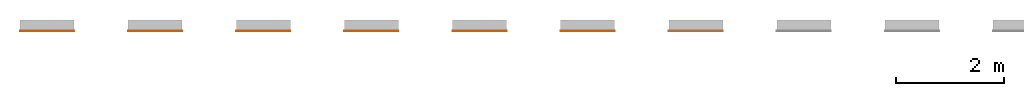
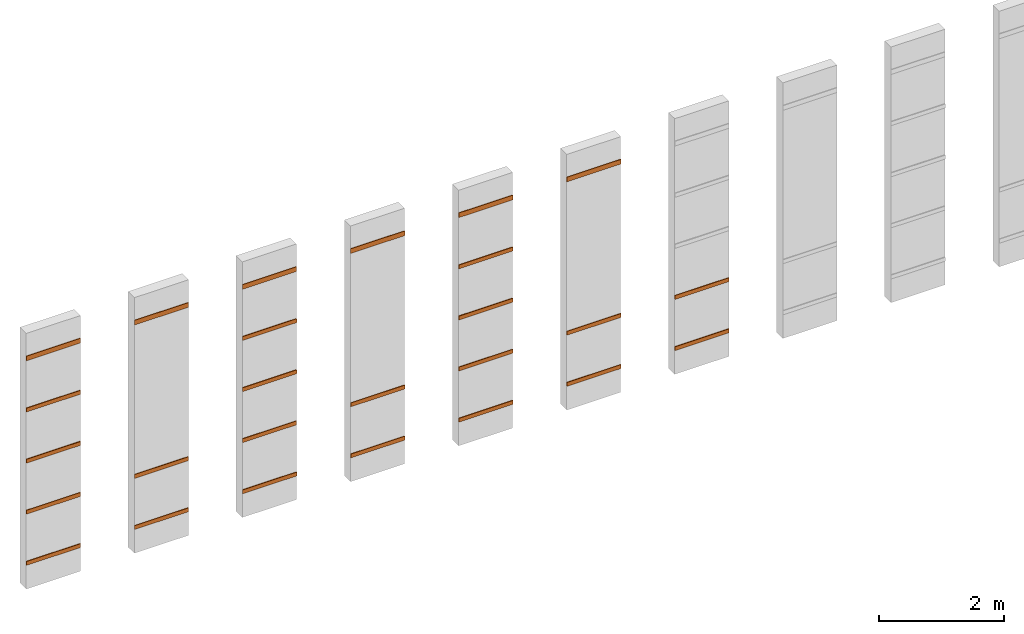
# One storey, part 2 of 3: 26 proxies.
"""IFC2X3 building model written with IfcOpenShell, lengths in millimetres."""

from ifc_helpers import new_model, entity, si_unit, converted_unit, derived_unit, direction, frame, frame_2d, origin, place, context, subcontext, project, spatial, polyline, circle_curve, parameter, trimmed, segment, composite_curve, outline, extrude, type_object, element, save


model = new_model("IFC2X3")

# Units and contexts
model_context = context("Model", 3, precision=0.01, world=origin(), true_north=direction((6.12303176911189e-17, 1.0)))
body_context = subcontext(model_context, "Body", "Model", "MODEL_VIEW")
ifc_project = project(units=[si_unit("LENGTHUNIT", "METRE", prefix="MILLI"), si_unit("AREAUNIT", "SQUARE_METRE"), si_unit("VOLUMEUNIT", "CUBIC_METRE"), converted_unit("PLANEANGLEUNIT", "DEGREE", entity("IfcRatioMeasure", 0.0174532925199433), si_unit("PLANEANGLEUNIT", "RADIAN"), dimensions=[0, 0, 0, 0, 0, 0, 0]), si_unit("MASSUNIT", "GRAM", prefix="KILO"), derived_unit("MASSDENSITYUNIT", [(si_unit("MASSUNIT", "GRAM", prefix="KILO"), 1), (si_unit("LENGTHUNIT", "METRE"), -3)]), derived_unit("MOMENTOFINERTIAUNIT", [(si_unit("LENGTHUNIT", "METRE"), 4)]), si_unit("TIMEUNIT", "SECOND"), si_unit("FREQUENCYUNIT", "HERTZ"), si_unit("THERMODYNAMICTEMPERATUREUNIT", "DEGREE_CELSIUS"), derived_unit("THERMALTRANSMITTANCEUNIT", [(si_unit("MASSUNIT", "GRAM", prefix="KILO"), 1), (si_unit("THERMODYNAMICTEMPERATUREUNIT", "KELVIN"), -1), (si_unit("TIMEUNIT", "SECOND"), -3)]), derived_unit("VOLUMETRICFLOWRATEUNIT", [(si_unit("LENGTHUNIT", "METRE"), 3), (si_unit("TIMEUNIT", "SECOND"), -1)]), si_unit("ELECTRICCURRENTUNIT", "AMPERE"), si_unit("ELECTRICVOLTAGEUNIT", "VOLT"), si_unit("POWERUNIT", "WATT"), si_unit("FORCEUNIT", "NEWTON", prefix="KILO"), si_unit("ILLUMINANCEUNIT", "LUX"), si_unit("LUMINOUSFLUXUNIT", "LUMEN"), si_unit("LUMINOUSINTENSITYUNIT", "CANDELA"), derived_unit("USERDEFINED", [(si_unit("MASSUNIT", "GRAM", prefix="KILO"), -1), (si_unit("LENGTHUNIT", "METRE"), -2), (si_unit("TIMEUNIT", "SECOND"), 3), (si_unit("LUMINOUSFLUXUNIT", "LUMEN"), 1)]), derived_unit("LINEARVELOCITYUNIT", [(si_unit("LENGTHUNIT", "METRE"), 1), (si_unit("TIMEUNIT", "SECOND"), -1)]), si_unit("PRESSUREUNIT", "PASCAL"), derived_unit("USERDEFINED", [(si_unit("LENGTHUNIT", "METRE"), -2), (si_unit("MASSUNIT", "GRAM", prefix="KILO"), 1), (si_unit("TIMEUNIT", "SECOND"), -2)]), derived_unit("LINEARFORCEUNIT", [(si_unit("MASSUNIT", "GRAM", prefix="KILO"), 1), (si_unit("LENGTHUNIT", "METRE"), 1), (si_unit("TIMEUNIT", "SECOND"), -2), (si_unit("LENGTHUNIT", "METRE"), -1)]), derived_unit("PLANARFORCEUNIT", [(si_unit("MASSUNIT", "GRAM", prefix="KILO"), 1), (si_unit("LENGTHUNIT", "METRE"), 1), (si_unit("TIMEUNIT", "SECOND"), -2), (si_unit("LENGTHUNIT", "METRE"), -2)])], contexts=[model_context])

# Site, building, storey
site_placement = place(None, origin())
site = spatial("IfcSite", under=ifc_project, at=site_placement, Name="Default", CompositionType="ELEMENT")
building_placement = place(site_placement, origin())
building = spatial("IfcBuilding", under=site, at=building_placement, CompositionType="ELEMENT")
storey_placement = place(building_placement, origin())
storey = spatial("IfcBuildingStorey", under=building, at=storey_placement, Name="Level 1", CompositionType="ELEMENT", Elevation=0.0)

# Proxies
building_element_proxy_type_1 = type_object("IfcBuildingElementProxyType", Name="Wall Sweep:REVIGRÉS-URBAN-RB-8X45-RECT-ANTRACITE", PredefinedType="NOTDEFINED")
proxy_1_placement = place(storey_placement, origin())
element("IfcBuildingElementProxy", 1, at=proxy_1_placement, inside=storey, type_object=building_element_proxy_type_1, Name="Wall Sweep:REVIGRÉS-URBAN-RB-8X45-RECT-ANTRACITE", ObjectType="Wall Sweep:REVIGRÉS-URBAN-RB-8X45-RECT-ANTRACITE", context=body_context, shape_type="SweptSolid", body=[
    extrude(outline(composite_curve([segment(polyline([(-37.5500000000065, -4.89999999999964), (42.4499999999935, -4.89999999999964)]), True, "CONTINUOUS"), segment(trimmed(circle_curve(frame_2d((32.6499999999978, -4.89999999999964), x_axis=(0.0, 1.0)), 9.79999999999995), [parameter(270.0)], [parameter(0.0)], True, "PARAMETER"), True, "CONTINUOUS"), segment(polyline([(32.6499999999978, 4.89999999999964), (-37.5500000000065, 4.89999999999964)]), True, "CONTINUOUS"), segment(polyline([(-37.5500000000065, 4.89999999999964), (-37.5500000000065, -4.89999999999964)]), True, "CONTINUOUS")], self_intersect=False)), frame((5592.00231570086, -6978.01532249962, -25641.9279793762), z_axis=(1.0, 0.0, 0.0), x_axis=(0.0, 0.0, 1.0)), (0.0, 0.0, 1.0), 1000.0),
])
building_element_proxy_type_2 = type_object("IfcBuildingElementProxyType", Name="Wall Sweep:REVIGRÉS-URBAN-RB-8X60-RECT-ANTRACITE", PredefinedType="NOTDEFINED")
proxy_2_placement = place(storey_placement, origin())
element("IfcBuildingElementProxy", 2, at=proxy_2_placement, inside=storey, type_object=building_element_proxy_type_2, Name="Wall Sweep:REVIGRÉS-URBAN-RB-8X60-RECT-ANTRACITE", ObjectType="Wall Sweep:REVIGRÉS-URBAN-RB-8X60-RECT-ANTRACITE", context=body_context, shape_type="SweptSolid", body=[
    extrude(outline(composite_curve([segment(polyline([(-37.8749999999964, -4.25), (42.1250000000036, -4.25)]), True, "CONTINUOUS"), segment(trimmed(circle_curve(frame_2d((33.6250000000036, -4.25), x_axis=(0.0, 1.0)), 8.49999999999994), [parameter(270.0)], [parameter(0.0)], True, "PARAMETER"), True, "CONTINUOUS"), segment(polyline([(33.6250000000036, 4.25), (-37.8749999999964, 4.25)]), True, "CONTINUOUS"), segment(polyline([(-37.8749999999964, 4.25), (-37.8749999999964, -4.25)]), True, "CONTINUOUS")], self_intersect=False)), frame((5592.00231570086, -6977.36532249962, -24641.6029793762), z_axis=(1.0, 0.0, 0.0), x_axis=(0.0, 0.0, 1.0)), (0.0, 0.0, 1.0), 1000.0),
])
building_element_proxy_type_3 = type_object("IfcBuildingElementProxyType", Name="Wall Sweep:REVIGRÉS-URBAN-RB-8X90-RECT-ANTRACITE", PredefinedType="NOTDEFINED")
proxy_3_placement = place(storey_placement, origin())
element("IfcBuildingElementProxy", 3, at=proxy_3_placement, inside=storey, type_object=building_element_proxy_type_3, Name="Wall Sweep:REVIGRÉS-URBAN-RB-8X90-RECT-ANTRACITE", ObjectType="Wall Sweep:REVIGRÉS-URBAN-RB-8X90-RECT-ANTRACITE", context=body_context, shape_type="SweptSolid", body=[
    extrude(outline(composite_curve([segment(polyline([(-37.375, -5.24999999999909), (42.625, -5.24999999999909)]), True, "CONTINUOUS"), segment(trimmed(circle_curve(frame_2d((32.1250000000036, -5.24999999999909), x_axis=(0.0, 1.0)), 10.4999999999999), [parameter(270.0)], [parameter(0.0)], True, "PARAMETER"), True, "CONTINUOUS"), segment(polyline([(32.1250000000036, 5.25), (-37.375, 5.25)]), True, "CONTINUOUS"), segment(polyline([(-37.375, 5.25), (-37.375, -5.24999999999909)]), True, "CONTINUOUS")], self_intersect=False)), frame((5592.00231570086, -6978.36532249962, -23642.1029793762), z_axis=(1.0, 0.0, 0.0), x_axis=(0.0, 0.0, 1.0)), (0.0, 0.0, 1.0), 1000.0),
])
building_element_proxy_type_4 = type_object("IfcBuildingElementProxyType", Name="Wall Sweep:REVIGRÉS-URBAN-RB-8X120-RECT-ANTRACITE", PredefinedType="NOTDEFINED")
proxy_4_placement = place(storey_placement, origin())
element("IfcBuildingElementProxy", 4, at=proxy_4_placement, inside=storey, type_object=building_element_proxy_type_4, Name="Wall Sweep:REVIGRÉS-URBAN-RB-8X120-RECT-ANTRACITE", ObjectType="Wall Sweep:REVIGRÉS-URBAN-RB-8X120-RECT-ANTRACITE", context=body_context, shape_type="SweptSolid", body=[
    extrude(outline(composite_curve([segment(polyline([(-37.5499999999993, -4.89999999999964), (42.4500000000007, -4.89999999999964)]), True, "CONTINUOUS"), segment(trimmed(circle_curve(frame_2d((32.6500000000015, -4.89999999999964), x_axis=(0.0, 1.0)), 9.79999999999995), [parameter(270.0)], [parameter(0.0)], True, "PARAMETER"), True, "CONTINUOUS"), segment(polyline([(32.6500000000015, 4.89999999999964), (-37.5499999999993, 4.89999999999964)]), True, "CONTINUOUS"), segment(polyline([(-37.5499999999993, 4.89999999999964), (-37.5499999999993, -4.89999999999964)]), True, "CONTINUOUS")], self_intersect=False)), frame((5592.00231570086, -6978.01532249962, -22641.9279793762), z_axis=(1.0, 0.0, 0.0), x_axis=(0.0, 0.0, 1.0)), (0.0, 0.0, 1.0), 1000.0),
])
building_element_proxy_type_5 = type_object("IfcBuildingElementProxyType", Name="Wall Sweep:REVIGRÉS-URBAN-RB-9.5X30-RECT-ANTRACITE", PredefinedType="NOTDEFINED")
proxy_5_placement = place(storey_placement, origin())
element("IfcBuildingElementProxy", 5, at=proxy_5_placement, inside=storey, type_object=building_element_proxy_type_5, Name="Wall Sweep:REVIGRÉS-URBAN-RB-9.5X30-RECT-ANTRACITE", ObjectType="Wall Sweep:REVIGRÉS-URBAN-RB-9.5X30-RECT-ANTRACITE", context=body_context, shape_type="SweptSolid", body=[
    extrude(outline(composite_curve([segment(polyline([(-45.5749999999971, -3.84999999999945), (49.4250000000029, -3.84999999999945)]), True, "CONTINUOUS"), segment(trimmed(circle_curve(frame_2d((41.7250000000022, -3.84999999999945), x_axis=(0.0, 1.0)), 7.69999999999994), [parameter(270.0)], [parameter(0.0)], True, "PARAMETER"), True, "CONTINUOUS"), segment(polyline([(41.7250000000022, 3.85000000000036), (-45.5749999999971, 3.85000000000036)]), True, "CONTINUOUS"), segment(polyline([(-45.5749999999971, 3.85000000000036), (-45.5749999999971, -3.84999999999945)]), True, "CONTINUOUS")], self_intersect=False)), frame((5592.00231570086, -6976.96532249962, -21633.9029793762), z_axis=(1.0, 0.0, 0.0), x_axis=(0.0, 0.0, 1.0)), (0.0, 0.0, 1.0), 1000.0),
])
building_element_proxy_type_6 = type_object("IfcBuildingElementProxyType", Name="Wall Sweep:REVIGRÉS-URBAN-RB-8X45-NAT-ANTRACITE", PredefinedType="NOTDEFINED")
proxy_6_placement = place(storey_placement, origin())
element("IfcBuildingElementProxy", 6, at=proxy_6_placement, inside=storey, type_object=building_element_proxy_type_6, Name="Wall Sweep:REVIGRÉS-URBAN-RB-8X45-NAT-ANTRACITE", ObjectType="Wall Sweep:REVIGRÉS-URBAN-RB-8X45-NAT-ANTRACITE", context=body_context, shape_type="SweptSolid", body=[
    extrude(outline(composite_curve([segment(polyline([(-37.8750000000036, -4.25), (42.1249999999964, -4.25)]), True, "CONTINUOUS"), segment(trimmed(circle_curve(frame_2d((33.625, -4.25), x_axis=(0.0, 1.0)), 8.49999999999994), [parameter(270.0)], [parameter(0.0)], True, "PARAMETER"), True, "CONTINUOUS"), segment(polyline([(33.625, 4.25), (-37.8750000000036, 4.25)]), True, "CONTINUOUS"), segment(polyline([(-37.8750000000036, 4.25), (-37.8750000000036, -4.25)]), True, "CONTINUOUS")], self_intersect=False)), frame((7592.00231570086, -6977.36532249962, -25641.6029793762), z_axis=(1.0, 0.0, 0.0), x_axis=(0.0, 0.0, 1.0)), (0.0, 0.0, 1.0), 1000.0),
])
building_element_proxy_type_7 = type_object("IfcBuildingElementProxyType", Name="Wall Sweep:REVIGRÉS-URBAN-RB-8X60-NAT-ANTRACITE", PredefinedType="NOTDEFINED")
proxy_7_placement = place(storey_placement, origin())
element("IfcBuildingElementProxy", 7, at=proxy_7_placement, inside=storey, type_object=building_element_proxy_type_7, Name="Wall Sweep:REVIGRÉS-URBAN-RB-8X60-NAT-ANTRACITE", ObjectType="Wall Sweep:REVIGRÉS-URBAN-RB-8X60-NAT-ANTRACITE", context=body_context, shape_type="SweptSolid", body=[
    extrude(outline(composite_curve([segment(polyline([(-37.8749999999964, -4.25), (42.1250000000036, -4.25)]), True, "CONTINUOUS"), segment(trimmed(circle_curve(frame_2d((33.6250000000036, -4.25), x_axis=(0.0, 1.0)), 8.49999999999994), [parameter(270.0)], [parameter(0.0)], True, "PARAMETER"), True, "CONTINUOUS"), segment(polyline([(33.6250000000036, 4.25), (-37.8749999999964, 4.25)]), True, "CONTINUOUS"), segment(polyline([(-37.8749999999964, 4.25), (-37.8749999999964, -4.25)]), True, "CONTINUOUS")], self_intersect=False)), frame((7592.00231570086, -6977.36532249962, -24641.6029793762), z_axis=(1.0, 0.0, 0.0), x_axis=(0.0, 0.0, 1.0)), (0.0, 0.0, 1.0), 1000.0),
])
building_element_proxy_type_8 = type_object("IfcBuildingElementProxyType", Name="Wall Sweep:REVIGRÉS-URBAN-RB-9.5X30-NAT-ANTRACITE", PredefinedType="NOTDEFINED")
proxy_8_placement = place(storey_placement, origin())
element("IfcBuildingElementProxy", 8, at=proxy_8_placement, inside=storey, type_object=building_element_proxy_type_8, Name="Wall Sweep:REVIGRÉS-URBAN-RB-9.5X30-NAT-ANTRACITE", ObjectType="Wall Sweep:REVIGRÉS-URBAN-RB-9.5X30-NAT-ANTRACITE", context=body_context, shape_type="SweptSolid", body=[
    extrude(outline(composite_curve([segment(polyline([(-45.5749999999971, -3.85000000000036), (49.4250000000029, -3.85000000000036)]), True, "CONTINUOUS"), segment(trimmed(circle_curve(frame_2d((41.7250000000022, -3.85000000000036), x_axis=(0.0, 1.0)), 7.69999999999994), [parameter(270.0)], [parameter(0.0)], True, "PARAMETER"), True, "CONTINUOUS"), segment(polyline([(41.7250000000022, 3.84999999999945), (-45.5749999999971, 3.84999999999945)]), True, "CONTINUOUS"), segment(polyline([(-45.5749999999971, 3.84999999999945), (-45.5749999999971, -3.85000000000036)]), True, "CONTINUOUS")], self_intersect=False)), frame((7592.00231570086, -6976.96532249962, -21633.9029793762), z_axis=(1.0, 0.0, 0.0), x_axis=(0.0, 0.0, 1.0)), (0.0, 0.0, 1.0), 1000.0),
])
building_element_proxy_type_9 = type_object("IfcBuildingElementProxyType", Name="Wall Sweep:REVIGRÉS-URBAN-RB-8X45-RECT-BONE", PredefinedType="NOTDEFINED")
proxy_9_placement = place(storey_placement, origin())
element("IfcBuildingElementProxy", 9, at=proxy_9_placement, inside=storey, type_object=building_element_proxy_type_9, Name="Wall Sweep:REVIGRÉS-URBAN-RB-8X45-RECT-BONE", ObjectType="Wall Sweep:REVIGRÉS-URBAN-RB-8X45-RECT-BONE", context=body_context, shape_type="SweptSolid", body=[
    extrude(outline(composite_curve([segment(polyline([(-37.5500000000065, -4.89999999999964), (42.4499999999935, -4.89999999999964)]), True, "CONTINUOUS"), segment(trimmed(circle_curve(frame_2d((32.6499999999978, -4.89999999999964), x_axis=(0.0, 1.0)), 9.79999999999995), [parameter(270.0)], [parameter(0.0)], True, "PARAMETER"), True, "CONTINUOUS"), segment(polyline([(32.6499999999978, 4.90000000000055), (-37.5500000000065, 4.90000000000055)]), True, "CONTINUOUS"), segment(polyline([(-37.5500000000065, 4.90000000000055), (-37.5500000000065, -4.89999999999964)]), True, "CONTINUOUS")], self_intersect=False)), frame((9592.00231570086, -6978.01532249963, -25641.9279793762), z_axis=(1.0, 0.0, 0.0), x_axis=(0.0, 0.0, 1.0)), (0.0, 0.0, 1.0), 1000.0),
])
building_element_proxy_type_10 = type_object("IfcBuildingElementProxyType", Name="Wall Sweep:REVIGRÉS-URBAN-RB-8X60-RECT-BONE", PredefinedType="NOTDEFINED")
proxy_10_placement = place(storey_placement, origin())
element("IfcBuildingElementProxy", 10, at=proxy_10_placement, inside=storey, type_object=building_element_proxy_type_10, Name="Wall Sweep:REVIGRÉS-URBAN-RB-8X60-RECT-BONE", ObjectType="Wall Sweep:REVIGRÉS-URBAN-RB-8X60-RECT-BONE", context=body_context, shape_type="SweptSolid", body=[
    extrude(outline(composite_curve([segment(polyline([(-37.8749999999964, -4.25), (42.1250000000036, -4.25)]), True, "CONTINUOUS"), segment(trimmed(circle_curve(frame_2d((33.6250000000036, -4.25), x_axis=(0.0, 1.0)), 8.49999999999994), [parameter(270.0)], [parameter(0.0)], True, "PARAMETER"), True, "CONTINUOUS"), segment(polyline([(33.6250000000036, 4.25), (-37.8749999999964, 4.25)]), True, "CONTINUOUS"), segment(polyline([(-37.8749999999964, 4.25), (-37.8749999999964, -4.25)]), True, "CONTINUOUS")], self_intersect=False)), frame((9592.00231570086, -6977.36532249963, -24641.6029793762), z_axis=(1.0, 0.0, 0.0), x_axis=(0.0, 0.0, 1.0)), (0.0, 0.0, 1.0), 1000.0),
])
building_element_proxy_type_11 = type_object("IfcBuildingElementProxyType", Name="Wall Sweep:REVIGRÉS-URBAN-RB-8X90-RECT-BONE", PredefinedType="NOTDEFINED")
proxy_11_placement = place(storey_placement, origin())
element("IfcBuildingElementProxy", 11, at=proxy_11_placement, inside=storey, type_object=building_element_proxy_type_11, Name="Wall Sweep:REVIGRÉS-URBAN-RB-8X90-RECT-BONE", ObjectType="Wall Sweep:REVIGRÉS-URBAN-RB-8X90-RECT-BONE", context=body_context, shape_type="SweptSolid", body=[
    extrude(outline(composite_curve([segment(polyline([(-37.375, -5.25), (42.625, -5.25)]), True, "CONTINUOUS"), segment(trimmed(circle_curve(frame_2d((32.1250000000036, -5.25), x_axis=(0.0, 1.0)), 10.4999999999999), [parameter(270.0)], [parameter(0.0)], True, "PARAMETER"), True, "CONTINUOUS"), segment(polyline([(32.1250000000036, 5.25), (-37.375, 5.25)]), True, "CONTINUOUS"), segment(polyline([(-37.375, 5.25), (-37.375, -5.25)]), True, "CONTINUOUS")], self_intersect=False)), frame((9592.00231570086, -6978.36532249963, -23642.1029793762), z_axis=(1.0, 0.0, 0.0), x_axis=(0.0, 0.0, 1.0)), (0.0, 0.0, 1.0), 1000.0),
])
building_element_proxy_type_12 = type_object("IfcBuildingElementProxyType", Name="Wall Sweep:REVIGRÉS-URBAN-RB-8X120-RECT-BONE", PredefinedType="NOTDEFINED")
proxy_12_placement = place(storey_placement, origin())
element("IfcBuildingElementProxy", 12, at=proxy_12_placement, inside=storey, type_object=building_element_proxy_type_12, Name="Wall Sweep:REVIGRÉS-URBAN-RB-8X120-RECT-BONE", ObjectType="Wall Sweep:REVIGRÉS-URBAN-RB-8X120-RECT-BONE", context=body_context, shape_type="SweptSolid", body=[
    extrude(outline(composite_curve([segment(polyline([(-37.5499999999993, -4.89999999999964), (42.4500000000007, -4.89999999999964)]), True, "CONTINUOUS"), segment(trimmed(circle_curve(frame_2d((32.6500000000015, -4.89999999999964), x_axis=(0.0, 1.0)), 9.79999999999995), [parameter(270.0)], [parameter(0.0)], True, "PARAMETER"), True, "CONTINUOUS"), segment(polyline([(32.6500000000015, 4.90000000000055), (-37.5499999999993, 4.90000000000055)]), True, "CONTINUOUS"), segment(polyline([(-37.5499999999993, 4.90000000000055), (-37.5499999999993, -4.89999999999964)]), True, "CONTINUOUS")], self_intersect=False)), frame((9592.00231570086, -6978.01532249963, -22641.9279793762), z_axis=(1.0, 0.0, 0.0), x_axis=(0.0, 0.0, 1.0)), (0.0, 0.0, 1.0), 1000.0),
])
building_element_proxy_type_13 = type_object("IfcBuildingElementProxyType", Name="Wall Sweep:REVIGRÉS-URBAN-RB-9.5X30-RECT-BONE", PredefinedType="NOTDEFINED")
proxy_13_placement = place(storey_placement, origin())
element("IfcBuildingElementProxy", 13, at=proxy_13_placement, inside=storey, type_object=building_element_proxy_type_13, Name="Wall Sweep:REVIGRÉS-URBAN-RB-9.5X30-RECT-BONE", ObjectType="Wall Sweep:REVIGRÉS-URBAN-RB-9.5X30-RECT-BONE", context=body_context, shape_type="SweptSolid", body=[
    extrude(outline(composite_curve([segment(polyline([(-45.5749999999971, -3.85000000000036), (49.4250000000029, -3.85000000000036)]), True, "CONTINUOUS"), segment(trimmed(circle_curve(frame_2d((41.7250000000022, -3.85000000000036), x_axis=(0.0, 1.0)), 7.69999999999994), [parameter(270.0)], [parameter(0.0)], True, "PARAMETER"), True, "CONTINUOUS"), segment(polyline([(41.7250000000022, 3.85000000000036), (-45.5749999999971, 3.85000000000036)]), True, "CONTINUOUS"), segment(polyline([(-45.5749999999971, 3.85000000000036), (-45.5749999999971, -3.85000000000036)]), True, "CONTINUOUS")], self_intersect=False)), frame((9592.00231570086, -6976.96532249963, -21633.9029793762), z_axis=(1.0, 0.0, 0.0), x_axis=(0.0, 0.0, 1.0)), (0.0, 0.0, 1.0), 1000.0),
])
building_element_proxy_type_14 = type_object("IfcBuildingElementProxyType", Name="Wall Sweep:REVIGRÉS-URBAN-RB-8X45-NAT-BONE", PredefinedType="NOTDEFINED")
proxy_14_placement = place(storey_placement, origin())
element("IfcBuildingElementProxy", 14, at=proxy_14_placement, inside=storey, type_object=building_element_proxy_type_14, Name="Wall Sweep:REVIGRÉS-URBAN-RB-8X45-NAT-BONE", ObjectType="Wall Sweep:REVIGRÉS-URBAN-RB-8X45-NAT-BONE", context=body_context, shape_type="SweptSolid", body=[
    extrude(outline(composite_curve([segment(polyline([(-37.8750000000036, -4.25), (42.1249999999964, -4.25)]), True, "CONTINUOUS"), segment(trimmed(circle_curve(frame_2d((33.625, -4.25), x_axis=(0.0, 1.0)), 8.49999999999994), [parameter(270.0)], [parameter(0.0)], True, "PARAMETER"), True, "CONTINUOUS"), segment(polyline([(33.625, 4.25), (-37.8750000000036, 4.25)]), True, "CONTINUOUS"), segment(polyline([(-37.8750000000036, 4.25), (-37.8750000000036, -4.25)]), True, "CONTINUOUS")], self_intersect=False)), frame((11592.0023157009, -6977.36532249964, -25641.6029793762), z_axis=(1.0, 0.0, 0.0), x_axis=(0.0, 0.0, 1.0)), (0.0, 0.0, 1.0), 1000.0),
])
building_element_proxy_type_15 = type_object("IfcBuildingElementProxyType", Name="Wall Sweep:REVIGRÉS-URBAN-RB-8X60-NAT-BONE", PredefinedType="NOTDEFINED")
proxy_15_placement = place(storey_placement, origin())
element("IfcBuildingElementProxy", 15, at=proxy_15_placement, inside=storey, type_object=building_element_proxy_type_15, Name="Wall Sweep:REVIGRÉS-URBAN-RB-8X60-NAT-BONE", ObjectType="Wall Sweep:REVIGRÉS-URBAN-RB-8X60-NAT-BONE", context=body_context, shape_type="SweptSolid", body=[
    extrude(outline(composite_curve([segment(polyline([(-37.8749999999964, -4.25), (42.1250000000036, -4.25)]), True, "CONTINUOUS"), segment(trimmed(circle_curve(frame_2d((33.6250000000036, -4.25), x_axis=(0.0, 1.0)), 8.49999999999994), [parameter(270.0)], [parameter(0.0)], True, "PARAMETER"), True, "CONTINUOUS"), segment(polyline([(33.6250000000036, 4.25), (-37.8749999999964, 4.25)]), True, "CONTINUOUS"), segment(polyline([(-37.8749999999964, 4.25), (-37.8749999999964, -4.25)]), True, "CONTINUOUS")], self_intersect=False)), frame((11592.0023157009, -6977.36532249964, -24641.6029793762), z_axis=(1.0, 0.0, 0.0), x_axis=(0.0, 0.0, 1.0)), (0.0, 0.0, 1.0), 1000.0),
])
building_element_proxy_type_16 = type_object("IfcBuildingElementProxyType", Name="Wall Sweep:REVIGRÉS-URBAN-RB-9.5X30-NAT-BONE", PredefinedType="NOTDEFINED")
proxy_16_placement = place(storey_placement, origin())
element("IfcBuildingElementProxy", 16, at=proxy_16_placement, inside=storey, type_object=building_element_proxy_type_16, Name="Wall Sweep:REVIGRÉS-URBAN-RB-9.5X30-NAT-BONE", ObjectType="Wall Sweep:REVIGRÉS-URBAN-RB-9.5X30-NAT-BONE", context=body_context, shape_type="SweptSolid", body=[
    extrude(outline(composite_curve([segment(polyline([(-45.5749999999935, -3.85000000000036), (49.4250000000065, -3.85000000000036)]), True, "CONTINUOUS"), segment(trimmed(circle_curve(frame_2d((41.7250000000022, -3.85000000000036), x_axis=(0.0, 1.0)), 7.69999999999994), [parameter(270.0)], [parameter(0.0)], True, "PARAMETER"), True, "CONTINUOUS"), segment(polyline([(41.7250000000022, 3.85000000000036), (-45.5749999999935, 3.85000000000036)]), True, "CONTINUOUS"), segment(polyline([(-45.5749999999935, 3.85000000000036), (-45.5749999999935, -3.85000000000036)]), True, "CONTINUOUS")], self_intersect=False)), frame((11592.0023157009, -6976.96532249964, -21633.9029793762), z_axis=(1.0, 0.0, 0.0), x_axis=(0.0, 0.0, 1.0)), (0.0, 0.0, 1.0), 1000.0),
])
building_element_proxy_type_17 = type_object("IfcBuildingElementProxyType", Name="Wall Sweep:REVIGRÉS-URBAN-RB-8X45-RECT-CRAFT", PredefinedType="NOTDEFINED")
proxy_17_placement = place(storey_placement, origin())
element("IfcBuildingElementProxy", 17, at=proxy_17_placement, inside=storey, type_object=building_element_proxy_type_17, Name="Wall Sweep:REVIGRÉS-URBAN-RB-8X45-RECT-CRAFT", ObjectType="Wall Sweep:REVIGRÉS-URBAN-RB-8X45-RECT-CRAFT", context=body_context, shape_type="SweptSolid", body=[
    extrude(outline(composite_curve([segment(polyline([(-37.5500000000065, -4.90000000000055), (42.4499999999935, -4.90000000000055)]), True, "CONTINUOUS"), segment(trimmed(circle_curve(frame_2d((32.6499999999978, -4.90000000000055), x_axis=(0.0, 1.0)), 9.79999999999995), [parameter(270.0)], [parameter(0.0)], True, "PARAMETER"), True, "CONTINUOUS"), segment(polyline([(32.6499999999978, 4.89999999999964), (-37.5500000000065, 4.89999999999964)]), True, "CONTINUOUS"), segment(polyline([(-37.5500000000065, 4.89999999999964), (-37.5500000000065, -4.90000000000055)]), True, "CONTINUOUS")], self_intersect=False)), frame((13592.0023157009, -6978.01532249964, -25641.9279793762), z_axis=(1.0, 0.0, 0.0), x_axis=(0.0, 0.0, 1.0)), (0.0, 0.0, 1.0), 1000.0),
])
building_element_proxy_type_18 = type_object("IfcBuildingElementProxyType", Name="Wall Sweep:REVIGRÉS-URBAN-RB-8X60-RECT-CRAFT", PredefinedType="NOTDEFINED")
proxy_18_placement = place(storey_placement, origin())
element("IfcBuildingElementProxy", 18, at=proxy_18_placement, inside=storey, type_object=building_element_proxy_type_18, Name="Wall Sweep:REVIGRÉS-URBAN-RB-8X60-RECT-CRAFT", ObjectType="Wall Sweep:REVIGRÉS-URBAN-RB-8X60-RECT-CRAFT", context=body_context, shape_type="SweptSolid", body=[
    extrude(outline(composite_curve([segment(polyline([(-37.8749999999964, -4.25), (42.1250000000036, -4.25)]), True, "CONTINUOUS"), segment(trimmed(circle_curve(frame_2d((33.6250000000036, -4.25), x_axis=(0.0, 1.0)), 8.49999999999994), [parameter(270.0)], [parameter(0.0)], True, "PARAMETER"), True, "CONTINUOUS"), segment(polyline([(33.6250000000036, 4.25), (-37.8749999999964, 4.25)]), True, "CONTINUOUS"), segment(polyline([(-37.8749999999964, 4.25), (-37.8749999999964, -4.25)]), True, "CONTINUOUS")], self_intersect=False)), frame((13592.0023157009, -6977.36532249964, -24641.6029793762), z_axis=(1.0, 0.0, 0.0), x_axis=(0.0, 0.0, 1.0)), (0.0, 0.0, 1.0), 1000.0),
])
building_element_proxy_type_19 = type_object("IfcBuildingElementProxyType", Name="Wall Sweep:REVIGRÉS-URBAN-RB-8X90-RECT-CRAFT", PredefinedType="NOTDEFINED")
proxy_19_placement = place(storey_placement, origin())
element("IfcBuildingElementProxy", 19, at=proxy_19_placement, inside=storey, type_object=building_element_proxy_type_19, Name="Wall Sweep:REVIGRÉS-URBAN-RB-8X90-RECT-CRAFT", ObjectType="Wall Sweep:REVIGRÉS-URBAN-RB-8X90-RECT-CRAFT", context=body_context, shape_type="SweptSolid", body=[
    extrude(outline(composite_curve([segment(polyline([(-37.375, -5.25), (42.625, -5.25)]), True, "CONTINUOUS"), segment(trimmed(circle_curve(frame_2d((32.1250000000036, -5.25), x_axis=(0.0, 1.0)), 10.4999999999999), [parameter(270.0)], [parameter(0.0)], True, "PARAMETER"), True, "CONTINUOUS"), segment(polyline([(32.1250000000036, 5.25), (-37.375, 5.25)]), True, "CONTINUOUS"), segment(polyline([(-37.375, 5.25), (-37.375, -5.25)]), True, "CONTINUOUS")], self_intersect=False)), frame((13592.0023157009, -6978.36532249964, -23642.1029793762), z_axis=(1.0, 0.0, 0.0), x_axis=(0.0, 0.0, 1.0)), (0.0, 0.0, 1.0), 1000.0),
])
building_element_proxy_type_20 = type_object("IfcBuildingElementProxyType", Name="Wall Sweep:REVIGRÉS-URBAN-RB-8X120-RECT-CRAFT", PredefinedType="NOTDEFINED")
proxy_20_placement = place(storey_placement, origin())
element("IfcBuildingElementProxy", 20, at=proxy_20_placement, inside=storey, type_object=building_element_proxy_type_20, Name="Wall Sweep:REVIGRÉS-URBAN-RB-8X120-RECT-CRAFT", ObjectType="Wall Sweep:REVIGRÉS-URBAN-RB-8X120-RECT-CRAFT", context=body_context, shape_type="SweptSolid", body=[
    extrude(outline(composite_curve([segment(polyline([(-37.5499999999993, -4.90000000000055), (42.4500000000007, -4.90000000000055)]), True, "CONTINUOUS"), segment(trimmed(circle_curve(frame_2d((32.6500000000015, -4.90000000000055), x_axis=(0.0, 1.0)), 9.79999999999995), [parameter(270.0)], [parameter(0.0)], True, "PARAMETER"), True, "CONTINUOUS"), segment(polyline([(32.6500000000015, 4.89999999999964), (-37.5499999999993, 4.89999999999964)]), True, "CONTINUOUS"), segment(polyline([(-37.5499999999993, 4.89999999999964), (-37.5499999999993, -4.90000000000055)]), True, "CONTINUOUS")], self_intersect=False)), frame((13592.0023157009, -6978.01532249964, -22641.9279793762), z_axis=(1.0, 0.0, 0.0), x_axis=(0.0, 0.0, 1.0)), (0.0, 0.0, 1.0), 1000.0),
])
building_element_proxy_type_21 = type_object("IfcBuildingElementProxyType", Name="Wall Sweep:REVIGRÉS-URBAN-RB-9.5X30-RECT-CRAFT", PredefinedType="NOTDEFINED")
proxy_21_placement = place(storey_placement, origin())
element("IfcBuildingElementProxy", 21, at=proxy_21_placement, inside=storey, type_object=building_element_proxy_type_21, Name="Wall Sweep:REVIGRÉS-URBAN-RB-9.5X30-RECT-CRAFT", ObjectType="Wall Sweep:REVIGRÉS-URBAN-RB-9.5X30-RECT-CRAFT", context=body_context, shape_type="SweptSolid", body=[
    extrude(outline(composite_curve([segment(polyline([(-45.5749999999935, -3.85000000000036), (49.4250000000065, -3.85000000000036)]), True, "CONTINUOUS"), segment(trimmed(circle_curve(frame_2d((41.7250000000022, -3.85000000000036), x_axis=(0.0, 1.0)), 7.69999999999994), [parameter(270.0)], [parameter(0.0)], True, "PARAMETER"), True, "CONTINUOUS"), segment(polyline([(41.7250000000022, 3.85000000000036), (-45.5749999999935, 3.85000000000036)]), True, "CONTINUOUS"), segment(polyline([(-45.5749999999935, 3.85000000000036), (-45.5749999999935, -3.85000000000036)]), True, "CONTINUOUS")], self_intersect=False)), frame((13592.0023157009, -6976.96532249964, -21633.9029793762), z_axis=(1.0, 0.0, 0.0), x_axis=(0.0, 0.0, 1.0)), (0.0, 0.0, 1.0), 1000.0),
])
building_element_proxy_type_22 = type_object("IfcBuildingElementProxyType", Name="Wall Sweep:REVIGRÉS-URBAN-RB-8X45-NAT-CRAFT", PredefinedType="NOTDEFINED")
proxy_22_placement = place(storey_placement, origin())
element("IfcBuildingElementProxy", 22, at=proxy_22_placement, inside=storey, type_object=building_element_proxy_type_22, Name="Wall Sweep:REVIGRÉS-URBAN-RB-8X45-NAT-CRAFT", ObjectType="Wall Sweep:REVIGRÉS-URBAN-RB-8X45-NAT-CRAFT", context=body_context, shape_type="SweptSolid", body=[
    extrude(outline(composite_curve([segment(polyline([(-37.8750000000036, -4.25), (42.1249999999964, -4.25)]), True, "CONTINUOUS"), segment(trimmed(circle_curve(frame_2d((33.625, -4.25), x_axis=(0.0, 1.0)), 8.49999999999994), [parameter(270.0)], [parameter(0.0)], True, "PARAMETER"), True, "CONTINUOUS"), segment(polyline([(33.625, 4.25000000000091), (-37.8750000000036, 4.25000000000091)]), True, "CONTINUOUS"), segment(polyline([(-37.8750000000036, 4.25000000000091), (-37.8750000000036, -4.25)]), True, "CONTINUOUS")], self_intersect=False)), frame((15592.0023157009, -6977.36532249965, -25641.6029793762), z_axis=(1.0, 0.0, 0.0), x_axis=(0.0, 0.0, 1.0)), (0.0, 0.0, 1.0), 1000.0),
])
building_element_proxy_type_23 = type_object("IfcBuildingElementProxyType", Name="Wall Sweep:REVIGRÉS-URBAN-RB-8X60-NAT-CRAFT", PredefinedType="NOTDEFINED")
proxy_23_placement = place(storey_placement, origin())
element("IfcBuildingElementProxy", 23, at=proxy_23_placement, inside=storey, type_object=building_element_proxy_type_23, Name="Wall Sweep:REVIGRÉS-URBAN-RB-8X60-NAT-CRAFT", ObjectType="Wall Sweep:REVIGRÉS-URBAN-RB-8X60-NAT-CRAFT", context=body_context, shape_type="SweptSolid", body=[
    extrude(outline(composite_curve([segment(polyline([(-37.8749999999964, -4.25), (42.1250000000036, -4.25)]), True, "CONTINUOUS"), segment(trimmed(circle_curve(frame_2d((33.6250000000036, -4.25), x_axis=(0.0, 1.0)), 8.49999999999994), [parameter(270.0)], [parameter(0.0)], True, "PARAMETER"), True, "CONTINUOUS"), segment(polyline([(33.6250000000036, 4.25000000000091), (-37.8749999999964, 4.25000000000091)]), True, "CONTINUOUS"), segment(polyline([(-37.8749999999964, 4.25000000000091), (-37.8749999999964, -4.25)]), True, "CONTINUOUS")], self_intersect=False)), frame((15592.0023157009, -6977.36532249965, -24641.6029793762), z_axis=(1.0, 0.0, 0.0), x_axis=(0.0, 0.0, 1.0)), (0.0, 0.0, 1.0), 1000.0),
])
building_element_proxy_type_24 = type_object("IfcBuildingElementProxyType", Name="Wall Sweep:REVIGRÉS-URBAN-RB-9.5X30-NAT-CRAFT", PredefinedType="NOTDEFINED")
proxy_24_placement = place(storey_placement, origin())
element("IfcBuildingElementProxy", 24, at=proxy_24_placement, inside=storey, type_object=building_element_proxy_type_24, Name="Wall Sweep:REVIGRÉS-URBAN-RB-9.5X30-NAT-CRAFT", ObjectType="Wall Sweep:REVIGRÉS-URBAN-RB-9.5X30-NAT-CRAFT", context=body_context, shape_type="SweptSolid", body=[
    extrude(outline(composite_curve([segment(polyline([(-45.5749999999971, -3.85000000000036), (49.4250000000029, -3.85000000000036)]), True, "CONTINUOUS"), segment(trimmed(circle_curve(frame_2d((41.7250000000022, -3.85000000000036), x_axis=(0.0, 1.0)), 7.69999999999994), [parameter(270.0)], [parameter(0.0)], True, "PARAMETER"), True, "CONTINUOUS"), segment(polyline([(41.7250000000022, 3.85000000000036), (-45.5749999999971, 3.85000000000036)]), True, "CONTINUOUS"), segment(polyline([(-45.5749999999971, 3.85000000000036), (-45.5749999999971, -3.85000000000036)]), True, "CONTINUOUS")], self_intersect=False)), frame((15592.0023157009, -6976.96532249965, -21633.9029793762), z_axis=(1.0, 0.0, 0.0), x_axis=(0.0, 0.0, 1.0)), (0.0, 0.0, 1.0), 1000.0),
])
building_element_proxy_type_25 = type_object("IfcBuildingElementProxyType", Name="Wall Sweep:REVIGRÉS-URBAN-RB-8X45-RECT-FOG", PredefinedType="NOTDEFINED")
proxy_25_placement = place(storey_placement, origin())
element("IfcBuildingElementProxy", 25, at=proxy_25_placement, inside=storey, type_object=building_element_proxy_type_25, Name="Wall Sweep:REVIGRÉS-URBAN-RB-8X45-RECT-FOG", ObjectType="Wall Sweep:REVIGRÉS-URBAN-RB-8X45-RECT-FOG", context=body_context, shape_type="SweptSolid", body=[
    extrude(outline(composite_curve([segment(polyline([(-37.5500000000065, -4.90000000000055), (42.4499999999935, -4.90000000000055)]), True, "CONTINUOUS"), segment(trimmed(circle_curve(frame_2d((32.6499999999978, -4.90000000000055), x_axis=(0.0, 1.0)), 9.79999999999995), [parameter(270.0)], [parameter(0.0)], True, "PARAMETER"), True, "CONTINUOUS"), segment(polyline([(32.6499999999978, 4.89999999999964), (-37.5500000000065, 4.89999999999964)]), True, "CONTINUOUS"), segment(polyline([(-37.5500000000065, 4.89999999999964), (-37.5500000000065, -4.90000000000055)]), True, "CONTINUOUS")], self_intersect=False)), frame((17592.0023157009, -6978.01532249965, -25641.9279793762), z_axis=(1.0, 0.0, 0.0), x_axis=(0.0, 0.0, 1.0)), (0.0, 0.0, 1.0), 1000.0),
])
building_element_proxy_type_26 = type_object("IfcBuildingElementProxyType", Name="Wall Sweep:REVIGRÉS-URBAN-RB-8X60-RECT-FOG", PredefinedType="NOTDEFINED")
proxy_26_placement = place(storey_placement, origin())
element("IfcBuildingElementProxy", 26, at=proxy_26_placement, inside=storey, type_object=building_element_proxy_type_26, Name="Wall Sweep:REVIGRÉS-URBAN-RB-8X60-RECT-FOG", ObjectType="Wall Sweep:REVIGRÉS-URBAN-RB-8X60-RECT-FOG", context=body_context, shape_type="SweptSolid", body=[
    extrude(outline(composite_curve([segment(polyline([(-37.8749999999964, -4.25000000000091), (42.1250000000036, -4.25000000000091)]), True, "CONTINUOUS"), segment(trimmed(circle_curve(frame_2d((33.6250000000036, -4.25000000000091), x_axis=(0.0, 1.0)), 8.49999999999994), [parameter(270.0)], [parameter(0.0)], True, "PARAMETER"), True, "CONTINUOUS"), segment(polyline([(33.6250000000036, 4.25), (-37.8749999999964, 4.25)]), True, "CONTINUOUS"), segment(polyline([(-37.8749999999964, 4.25), (-37.8749999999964, -4.25000000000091)]), True, "CONTINUOUS")], self_intersect=False)), frame((17592.0023157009, -6977.36532249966, -24641.6029793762), z_axis=(1.0, 0.0, 0.0), x_axis=(0.0, 0.0, 1.0)), (0.0, 0.0, 1.0), 1000.0),
])

save(model, "model.ifc")
